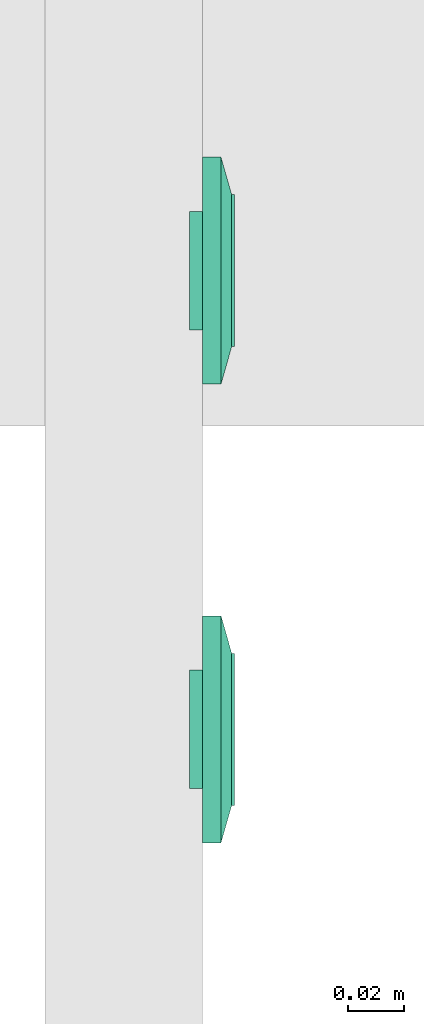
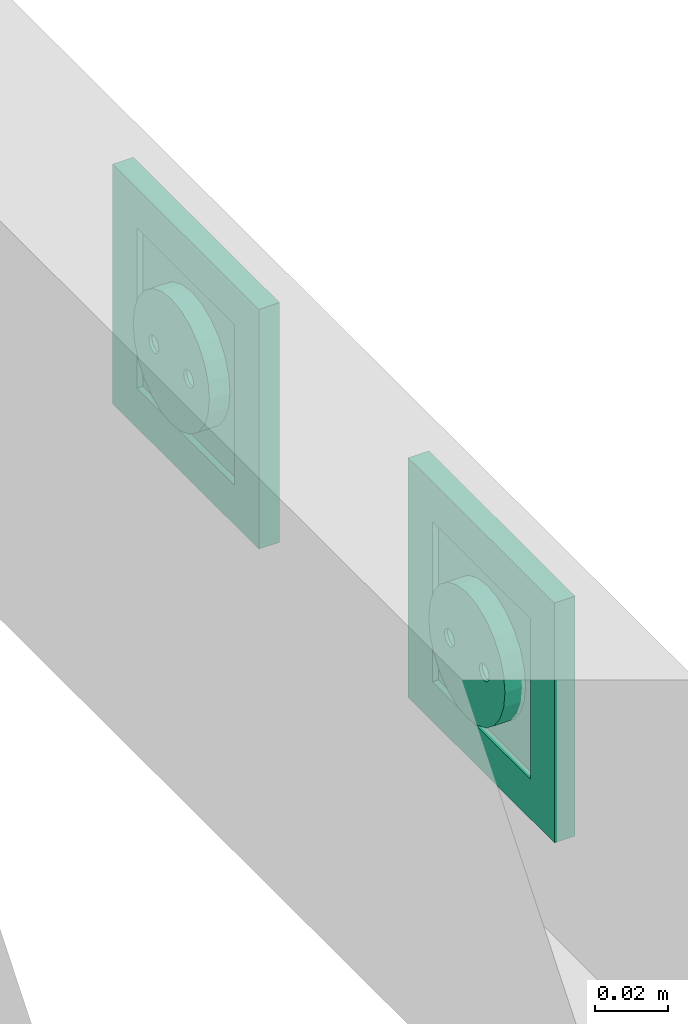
# One storey, part 50 of 166: 2 flow terminals.
"""IFC2X3 building model written with IfcOpenShell, lengths in metres."""

from ifc_helpers import new_model, entity, si_unit, converted_unit, derived_unit, direction, frame, origin, place, context, subcontext, project, spatial, face_set, surface_model, source, transform, mapped, type_object, type_shapes, element, save


model = new_model("IFC2X3")

# Units and contexts
model_context = context("Model", 3, precision=1e-05, world=origin(), true_north=direction((6.12303176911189e-17, 1.0)))
body_context = subcontext(model_context, "Body", "Model", "MODEL_VIEW")
ifc_project = project(units=[si_unit("LENGTHUNIT", "METRE"), si_unit("AREAUNIT", "SQUARE_METRE"), si_unit("VOLUMEUNIT", "CUBIC_METRE"), converted_unit("PLANEANGLEUNIT", "DEGREE", entity("IfcRatioMeasure", 0.0174532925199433), si_unit("PLANEANGLEUNIT", "RADIAN"), dimensions=[0, 0, 0, 0, 0, 0, 0]), si_unit("MASSUNIT", "GRAM", prefix="KILO"), derived_unit("MASSDENSITYUNIT", [(si_unit("MASSUNIT", "GRAM", prefix="KILO"), 1), (si_unit("LENGTHUNIT", "METRE"), -3)]), si_unit("TIMEUNIT", "SECOND"), si_unit("FREQUENCYUNIT", "HERTZ"), si_unit("THERMODYNAMICTEMPERATUREUNIT", "DEGREE_CELSIUS"), derived_unit("THERMALTRANSMITTANCEUNIT", [(si_unit("MASSUNIT", "GRAM", prefix="KILO"), 1), (si_unit("THERMODYNAMICTEMPERATUREUNIT", "KELVIN"), -1), (si_unit("TIMEUNIT", "SECOND"), -3)]), derived_unit("VOLUMETRICFLOWRATEUNIT", [(si_unit("LENGTHUNIT", "METRE"), 3), (si_unit("TIMEUNIT", "SECOND"), -1)]), si_unit("ELECTRICCURRENTUNIT", "AMPERE"), si_unit("ELECTRICVOLTAGEUNIT", "VOLT"), si_unit("POWERUNIT", "WATT"), si_unit("FORCEUNIT", "NEWTON"), si_unit("ILLUMINANCEUNIT", "LUX"), si_unit("LUMINOUSFLUXUNIT", "LUMEN"), si_unit("LUMINOUSINTENSITYUNIT", "CANDELA"), derived_unit("USERDEFINED", [(si_unit("MASSUNIT", "GRAM", prefix="KILO"), -1), (si_unit("LENGTHUNIT", "METRE"), -2), (si_unit("TIMEUNIT", "SECOND"), 3), (si_unit("LUMINOUSFLUXUNIT", "LUMEN"), 1)]), derived_unit("LINEARVELOCITYUNIT", [(si_unit("LENGTHUNIT", "METRE"), 1), (si_unit("TIMEUNIT", "SECOND"), -1)]), si_unit("PRESSUREUNIT", "PASCAL"), derived_unit("USERDEFINED", [(si_unit("LENGTHUNIT", "METRE"), -2), (si_unit("MASSUNIT", "GRAM", prefix="KILO"), 1), (si_unit("TIMEUNIT", "SECOND"), -2)])], contexts=[model_context])

# Site, building, storey
site_placement = place(None, origin())
site = spatial("IfcSite", under=ifc_project, at=site_placement, Name="Default", CompositionType="ELEMENT")
building_placement = place(site_placement, origin())
building = spatial("IfcBuilding", under=site, at=building_placement, CompositionType="ELEMENT")
storey_placement = place(building_placement, frame((0.0, 0.0, 4.27)))
storey = spatial("IfcBuildingStorey", under=building, at=storey_placement, Name="01", CompositionType="ELEMENT", Elevation=4.27)

# Flow terminals
light_fixture_type = type_object("IfcLightFixtureType", Name="PC IP20", PredefinedType="NOTDEFINED")
shared_shape = source(origin(), body_context, "Body", "SurfaceModel", [
    surface_model("IfcFaceBasedSurfaceModel", [(-0.00225000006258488, 0.0127499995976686, 0.00949633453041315), (0.0, 0.0104999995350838, 0.00949633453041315), (0.0, 0.0115376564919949, 0.0101656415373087), (0.0, 0.0139623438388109, 0.0101656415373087), (0.0, 0.0144589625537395, 0.00984531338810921), (0.0, 0.0121178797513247, 0.0102778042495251), (0.0, 0.0133821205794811, 0.0102778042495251), (0.0, 0.0127499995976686, 0.010399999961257), (0.0, 0.0149999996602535, 0.00949633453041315), (0.00225000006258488, 0.0127499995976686, 0.00949633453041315), (0.0, 0.0110410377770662, 0.00984531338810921), (0.0, 0.0127499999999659, 0.00949633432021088), (0.00225000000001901, 0.0127499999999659, 0.00949633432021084), (0.00217333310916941, 0.0121676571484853, 0.00949633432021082), (0.00194855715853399, 0.0116249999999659, 0.00949633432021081), (0.00159099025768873, 0.0111590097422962, 0.00949633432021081), (0.001125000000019, 0.010801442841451, 0.00949633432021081), (0.00058234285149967, 0.0105766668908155, 0.00949633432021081), (0.0, 0.0104999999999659, 0.00949633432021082), (-0.000582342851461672, 0.0105766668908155, 0.00949633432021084), (-0.001124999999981, 0.010801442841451, 0.00949633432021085), (-0.00159099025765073, 0.0111590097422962, 0.00949633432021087), (-0.00194855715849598, 0.011624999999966, 0.00949633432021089), (-0.0021733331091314, 0.0121676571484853, 0.00949633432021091), (-0.00224999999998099, 0.012749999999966, 0.00949633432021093), (-0.00217333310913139, 0.0133323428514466, 0.00949633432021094), (-0.00194855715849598, 0.013874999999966, 0.00949633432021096), (-0.00159099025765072, 0.0143409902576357, 0.00949633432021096), (-0.00112499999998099, 0.0146985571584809, 0.00949633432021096), (-0.00058234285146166, 0.0149233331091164, 0.00949633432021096), (0.0, 0.0149999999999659, 0.00949633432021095), (0.000582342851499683, 0.0149233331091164, 0.00949633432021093), (0.00112500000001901, 0.0146985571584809, 0.00949633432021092), (0.00159099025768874, 0.0143409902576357, 0.00949633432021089), (0.001948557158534, 0.0138749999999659, 0.00949633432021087), (0.00217333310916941, 0.0133323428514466, 0.00949633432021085), (0.00225000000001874, 0.0127499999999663, -0.00360000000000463), (0.00217333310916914, 0.0121676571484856, -0.00360000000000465), (0.00194855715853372, 0.0116249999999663, -0.00360000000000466), (0.00159099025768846, 0.0111590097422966, -0.00360000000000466), (0.00112500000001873, 0.0108014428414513, -0.00360000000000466), (0.000582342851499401, 0.0105766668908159, -0.00360000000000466), (0.0, 0.0104999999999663, -0.00360000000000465), (-0.000582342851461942, 0.0105766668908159, -0.00360000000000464), (-0.00112499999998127, 0.0108014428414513, -0.00360000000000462), (-0.001590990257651, 0.0111590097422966, -0.0036000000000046), (-0.00194855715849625, 0.0116249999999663, -0.00360000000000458), (-0.00217333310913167, 0.0121676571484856, -0.00360000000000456), (-0.00224999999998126, 0.0127499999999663, -0.00360000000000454), (-0.00217333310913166, 0.013332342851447, -0.00360000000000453), (-0.00194855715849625, 0.0138749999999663, -0.00360000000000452), (-0.00159099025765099, 0.014340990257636, -0.00360000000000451), (-0.00112499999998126, 0.0146985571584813, -0.00360000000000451), (-0.000582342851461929, 0.0149233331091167, -0.00360000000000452), (0.0, 0.0149999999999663, -0.00360000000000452), (0.000582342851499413, 0.0149233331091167, -0.00360000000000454), (0.00112500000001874, 0.0146985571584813, -0.00360000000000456), (0.00159099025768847, 0.014340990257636, -0.00360000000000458), (0.00194855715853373, 0.0138749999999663, -0.0036000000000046), (0.00217333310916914, 0.013332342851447, -0.00360000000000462), (0.0270000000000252, 0.026999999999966, 0.0113999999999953), (-0.0269999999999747, 0.026999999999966, 0.0113999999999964), (-0.0269999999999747, -0.0270000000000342, 0.0113999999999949), (0.0270000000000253, -0.0270000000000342, 0.0113999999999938), (-0.0199999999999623, 0.0, 0.0113999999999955), (-0.0193185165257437, -0.00517638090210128, 0.0113999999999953), (-0.0173205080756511, -0.0100000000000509, 0.0113999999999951), (-0.0141421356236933, -0.0141421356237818, 0.011399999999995), (-0.00999999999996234, -0.0173205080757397, 0.0113999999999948), (-0.00517638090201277, -0.0193185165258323, 0.0113999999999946), (0.0, -0.0200000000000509, 0.0113999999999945), (0.00517638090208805, -0.0193185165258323, 0.0113999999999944), (0.0100000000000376, -0.0173205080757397, 0.0113999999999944), (0.0141421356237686, -0.0141421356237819, 0.0113999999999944), (0.0173205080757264, -0.010000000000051, 0.0113999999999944), (0.0193185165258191, -0.00517638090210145, 0.0113999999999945), (0.0200000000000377, 0.0, 0.0113999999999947), (0.0193185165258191, 0.00517638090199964, 0.0113999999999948), (0.0173205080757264, 0.0099999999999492, 0.011399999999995), (0.0141421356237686, 0.0141421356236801, 0.0113999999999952), (0.0100000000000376, 0.0173205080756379, 0.0113999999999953), (0.00517638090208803, 0.0193185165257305, 0.0113999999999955), (0.0, 0.0199999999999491, 0.0113999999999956), (-0.00517638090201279, 0.0193185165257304, 0.0113999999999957), (-0.00999999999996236, 0.0173205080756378, 0.0113999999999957), (-0.0141421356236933, 0.01414213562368, 0.0113999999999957), (-0.0173205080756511, 0.00999999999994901, 0.0113999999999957), (-0.0193185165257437, 0.00517638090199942, 0.0113999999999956), (0.0270000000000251, 0.0269999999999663, 0.00199999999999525), (0.0270000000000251, -0.0270000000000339, 0.00199999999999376), (-0.0269999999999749, -0.0270000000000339, 0.00199999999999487), (-0.0269999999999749, 0.0269999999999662, 0.00199999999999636), (0.0210000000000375, 0.0, 0.00199999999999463), (0.0202844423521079, -0.00543519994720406, 0.00199999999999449), (0.0181865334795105, -0.0105000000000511, 0.0019999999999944), (0.0148492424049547, -0.0148492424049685, 0.00199999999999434), (0.0105000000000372, -0.0181865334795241, 0.00199999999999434), (0.0054351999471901, -0.0202844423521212, 0.00199999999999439), (0.0, -0.0210000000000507, 0.00199999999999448), (-0.00543519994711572, -0.020284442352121, 0.00199999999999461), (-0.0104999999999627, -0.0181865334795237, 0.00199999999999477), (-0.0148492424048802, -0.014849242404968, 0.00199999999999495), (-0.0181865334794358, -0.0105000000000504, 0.00199999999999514), (-0.020284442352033, -0.00543519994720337, 0.00199999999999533), (-0.0209999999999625, 0.0, 0.00199999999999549), (-0.0202844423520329, 0.0054351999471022, 0.00199999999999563), (-0.0181865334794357, 0.0104999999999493, 0.00199999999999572), (-0.01484924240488, 0.0148492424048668, 0.00199999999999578), (-0.0104999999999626, 0.0181865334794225, 0.00199999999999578), (-0.00543519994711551, 0.0202844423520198, 0.00199999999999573), (0.0, 0.0209999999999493, 0.00199999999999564), (0.00543519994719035, 0.0202844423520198, 0.00199999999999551), (0.0105000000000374, 0.0181865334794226, 0.00199999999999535), (0.0148492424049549, 0.0148492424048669, 0.00199999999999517), (0.0181865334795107, 0.0104999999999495, 0.00199999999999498), (0.0202844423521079, 0.00543519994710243, 0.00199999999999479), (0.0200000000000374, 0.0, -0.00360000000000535), (0.0193185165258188, -0.00517638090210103, -0.00360000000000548), (0.0173205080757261, -0.0100000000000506, -0.00360000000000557), (0.0141421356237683, -0.0141421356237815, -0.00360000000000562), (0.0100000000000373, -0.0173205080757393, -0.00360000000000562), (0.00517638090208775, -0.0193185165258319, -0.00360000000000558), (0.0, -0.0200000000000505, -0.00360000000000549), (-0.00517638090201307, -0.0193185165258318, -0.00360000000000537), (-0.00999999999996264, -0.0173205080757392, -0.00360000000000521), (-0.0141421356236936, -0.0141421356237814, -0.00360000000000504), (-0.0173205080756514, -0.0100000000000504, -0.00360000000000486), (-0.019318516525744, -0.00517638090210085, -0.00360000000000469), (-0.0199999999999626, 0.0, -0.00360000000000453), (-0.0193185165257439, 0.00517638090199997, -0.0036000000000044), (-0.0173205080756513, 0.00999999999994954, -0.00360000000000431), (-0.0141421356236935, 0.0141421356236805, -0.00360000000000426), (-0.00999999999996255, 0.0173205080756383, -0.00360000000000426), (-0.00517638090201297, 0.0193185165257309, -0.0036000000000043), (0.0, 0.0199999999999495, -0.00360000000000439), (0.00517638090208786, 0.0193185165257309, -0.00360000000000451), (0.0100000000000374, 0.0173205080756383, -0.00360000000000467), (0.0141421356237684, 0.0141421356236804, -0.00360000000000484), (0.0173205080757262, 0.0099999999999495, -0.00360000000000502), (0.0193185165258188, 0.00517638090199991, -0.00360000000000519), (-0.0123499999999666, 0.0, -0.00360000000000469), (-0.0122562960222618, -0.000711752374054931, -0.00360000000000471), (-0.0119815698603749, -0.00137500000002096, -0.00360000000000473), (-0.0115445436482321, -0.00194454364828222, -0.00360000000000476), (-0.0109749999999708, -0.00238156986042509, -0.00360000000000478), (-0.0103117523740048, -0.00265629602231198, -0.0036000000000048), (-0.00959999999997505, -0.00275000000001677, -0.00360000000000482), (-0.0088882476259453, -0.00265629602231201, -0.00360000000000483), (-0.00822499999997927, -0.00238156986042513, -0.00360000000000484), (-0.00765545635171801, -0.00194454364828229, -0.00360000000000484), (-0.00721843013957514, -0.00137500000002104, -0.00360000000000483), (-0.00694370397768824, -0.000711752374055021, -0.00360000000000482), (-0.00684999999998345, 0.0, -0.0036000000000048), (-0.00694370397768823, 0.000711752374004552, -0.00360000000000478), (-0.00721843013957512, 0.00137499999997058, -0.00360000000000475), (-0.00765545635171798, 0.00194454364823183, -0.00360000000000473), (-0.00822499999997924, 0.00238156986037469, -0.0036000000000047), (-0.00888824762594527, 0.00265629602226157, -0.00360000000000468), (-0.00959999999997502, 0.00274999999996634, -0.00360000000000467), (-0.0103117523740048, 0.00265629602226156, -0.00360000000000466), (-0.0109749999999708, 0.00238156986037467, -0.00360000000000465), (-0.011544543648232, 0.00194454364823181, -0.00360000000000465), (-0.0119815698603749, 0.00137499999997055, -0.00360000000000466), (-0.0122562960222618, 0.000711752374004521, -0.00360000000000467), (0.00685000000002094, 0.0, -0.00360000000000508), (0.0069437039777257, -0.00071175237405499, -0.0036000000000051), (0.00721843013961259, -0.00137500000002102, -0.00360000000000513), (0.00765545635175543, -0.00194454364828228, -0.00360000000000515), (0.00822500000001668, -0.00238156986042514, -0.00360000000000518), (0.00888824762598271, -0.00265629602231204, -0.0036000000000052), (0.00960000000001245, -0.00275000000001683, -0.00360000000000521), (0.0103117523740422, -0.00265629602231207, -0.00360000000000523), (0.0109750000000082, -0.00238156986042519, -0.00360000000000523), (0.0115445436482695, -0.00194454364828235, -0.00360000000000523), (0.0119815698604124, -0.0013750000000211, -0.00360000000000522), (0.0122562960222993, -0.00071175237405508, -0.00360000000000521), (0.012350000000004, 0.0, -0.00360000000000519), (0.0122562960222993, 0.000711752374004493, -0.00360000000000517), (0.0119815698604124, 0.00137499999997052, -0.00360000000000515), (0.0115445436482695, 0.00194454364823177, -0.00360000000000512), (0.0109750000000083, 0.00238156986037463, -0.0036000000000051), (0.0103117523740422, 0.00265629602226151, -0.00360000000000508), (0.00960000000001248, 0.00274999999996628, -0.00360000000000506), (0.00888824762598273, 0.0026562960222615, -0.00360000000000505), (0.0082250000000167, 0.00238156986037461, -0.00360000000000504), (0.00765545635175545, 0.00194454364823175, -0.00360000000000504), (0.0072184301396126, 0.00137499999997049, -0.00360000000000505), (0.00694370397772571, 0.000711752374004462, -0.00360000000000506), (0.0210000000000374, 0.0, -0.00460000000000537), (0.0202844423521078, -0.00543519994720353, -0.00460000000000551), (0.0181865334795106, -0.0105000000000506, -0.0046000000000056), (0.0148492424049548, -0.0148492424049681, -0.00460000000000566), (0.0105000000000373, -0.0181865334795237, -0.00460000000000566), (0.00543519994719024, -0.0202844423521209, -0.00460000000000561), (0.0, -0.0210000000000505, -0.00460000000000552), (-0.00543519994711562, -0.0202844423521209, -0.00460000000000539), (-0.0104999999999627, -0.0181865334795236, -0.00460000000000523), (-0.0148492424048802, -0.0148492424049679, -0.00460000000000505), (-0.0181865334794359, -0.0105000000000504, -0.00460000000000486), (-0.0202844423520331, -0.00543519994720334, -0.00460000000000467), (-0.0209999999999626, 0.0, -0.00460000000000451), (-0.020284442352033, 0.00543519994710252, -0.00460000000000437), (-0.0181865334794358, 0.0104999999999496, -0.00460000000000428), (-0.0148492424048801, 0.0148492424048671, -0.00460000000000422), (-0.0104999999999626, 0.0181865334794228, -0.00460000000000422), (-0.00543519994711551, 0.02028444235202, -0.00460000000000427), (0.0, 0.0209999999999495, -0.00460000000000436), (0.00543519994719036, 0.02028444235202, -0.00460000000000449), (0.0105000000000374, 0.0181865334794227, -0.00460000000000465), (0.0148492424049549, 0.014849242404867, -0.00460000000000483), (0.0181865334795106, 0.0104999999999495, -0.00460000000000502), (0.0202844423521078, 0.00543519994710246, -0.00460000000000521), (-0.00684999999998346, 0.0, -0.0046000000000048), (-0.00694370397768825, 0.000711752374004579, -0.00460000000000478), (-0.00721843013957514, 0.00137499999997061, -0.00460000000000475), (-0.007655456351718, 0.00194454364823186, -0.00460000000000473), (-0.00822499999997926, 0.00238156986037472, -0.0046000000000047), (-0.00888824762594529, 0.0026562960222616, -0.00460000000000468), (-0.00959999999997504, 0.00274999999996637, -0.00460000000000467), (-0.0103117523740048, 0.00265629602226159, -0.00460000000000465), (-0.0109749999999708, 0.0023815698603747, -0.00460000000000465), (-0.0115445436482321, 0.00194454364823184, -0.00460000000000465), (-0.0119815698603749, 0.00137499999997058, -0.00460000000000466), (-0.0122562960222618, 0.000711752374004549, -0.00460000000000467), (-0.0123499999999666, 0.0, -0.00460000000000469), (-0.0122562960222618, -0.000711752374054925, -0.00460000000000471), (-0.0119815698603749, -0.00137500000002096, -0.00460000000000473), (-0.0115445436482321, -0.00194454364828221, -0.00460000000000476), (-0.0109749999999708, -0.00238156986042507, -0.00460000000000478), (-0.0103117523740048, -0.00265629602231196, -0.0046000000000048), (-0.00959999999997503, -0.00275000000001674, -0.00460000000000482), (-0.00888824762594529, -0.00265629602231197, -0.00460000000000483), (-0.00822499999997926, -0.00238156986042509, -0.00460000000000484), (-0.007655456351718, -0.00194454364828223, -0.00460000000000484), (-0.00721843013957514, -0.00137500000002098, -0.00460000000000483), (-0.00694370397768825, -0.000711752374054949, -0.00460000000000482), (0.012350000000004, 0.0, -0.00460000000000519), (0.0122562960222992, 0.000711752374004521, -0.00460000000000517), (0.0119815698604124, 0.00137499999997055, -0.00460000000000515), (0.0115445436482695, 0.0019445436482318, -0.00460000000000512), (0.0109750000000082, 0.00238156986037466, -0.0046000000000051), (0.0103117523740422, 0.00265629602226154, -0.00460000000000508), (0.00960000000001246, 0.00274999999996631, -0.00460000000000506), (0.00888824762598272, 0.00265629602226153, -0.00460000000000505), (0.00822500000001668, 0.00238156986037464, -0.00460000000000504), (0.00765545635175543, 0.00194454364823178, -0.00460000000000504), (0.00721843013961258, 0.00137499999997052, -0.00460000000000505), (0.00694370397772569, 0.00071175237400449, -0.00460000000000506), (0.00685000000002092, 0.0, -0.00460000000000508), (0.00694370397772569, -0.000711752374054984, -0.0046000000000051), (0.00721843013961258, -0.00137500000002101, -0.00460000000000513), (0.00765545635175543, -0.00194454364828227, -0.00460000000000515), (0.00822500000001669, -0.00238156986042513, -0.00460000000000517), (0.00888824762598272, -0.00265629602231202, -0.0046000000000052), (0.00960000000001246, -0.0027500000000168, -0.00460000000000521), (0.0103117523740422, -0.00265629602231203, -0.00460000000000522), (0.0109750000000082, -0.00238156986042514, -0.00460000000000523), (0.0115445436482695, -0.00194454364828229, -0.00460000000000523), (0.0119815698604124, -0.00137500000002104, -0.00460000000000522), (0.0122562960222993, -0.000711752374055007, -0.00460000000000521), (0.040350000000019, 0.0403499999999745, 0.00659999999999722), (0.040350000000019, -0.0403500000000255, 0.00659999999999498), (-0.0403499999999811, -0.0403500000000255, 0.00659999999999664), (-0.0403499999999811, 0.0403499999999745, 0.00659999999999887), (0.027000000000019, 0.0269999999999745, 0.00659999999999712), (-0.0269999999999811, 0.0269999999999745, 0.00659999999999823), (-0.026999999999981, -0.0270000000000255, 0.00659999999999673), (0.027000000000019, -0.0270000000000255, 0.00659999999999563), (0.027000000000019, 0.0269999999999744, 0.0103999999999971), (-0.026999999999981, 0.0269999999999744, 0.0103999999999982), (-0.026999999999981, -0.0270000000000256, 0.0103999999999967), (0.027000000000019, -0.0270000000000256, 0.0103999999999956), (0.040350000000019, 0.0403499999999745, 0.00659999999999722), (0.040350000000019, -0.0403500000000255, 0.00659999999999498), (-0.0403499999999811, -0.0403500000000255, 0.00659999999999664), (-0.0403499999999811, 0.0403499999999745, 0.00659999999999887), (-0.0269999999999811, 0.0269999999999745, 0.00659999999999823), (-0.0269999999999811, -0.0270000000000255, 0.00659999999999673), (0.0270000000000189, -0.0270000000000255, 0.00659999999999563), (0.0270000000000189, 0.0269999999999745, 0.00659999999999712), (0.0403500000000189, 0.0403499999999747, 0.0), (0.0403500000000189, -0.0403500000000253, 0.0), (-0.0403499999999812, -0.0403500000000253, 0.0), (-0.0403499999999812, 0.0403499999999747, 0.0), (0.0270000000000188, 0.0269999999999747, 0.0), (-0.0269999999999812, 0.0269999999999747, 0.0), (-0.0269999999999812, -0.0270000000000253, 0.0), (0.0270000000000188, -0.0270000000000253, 0.0)], [face_set([[[0, 1, 2]], [[3, 4, 2, 5]], [[6, 3, 5, 7]], [[2, 4, 0]], [[4, 8, 0]], [[3, 9, 8]], [[1, 9, 10]], [[2, 3, 6, 7]], [[3, 10, 9]], [[2, 10, 3]], [[11, 1, 0, 8]], [[11, 8, 9, 1]]]), face_set([[[12, 13, 14, 15, 16, 17, 18, 19, 20, 21, 22, 23, 24, 25, 26, 27, 28, 29, 30, 31, 32, 33, 34, 35]], [[36, 37, 38, 39, 40, 41, 42, 43, 44, 45, 46, 47, 48, 49, 50, 51, 52, 53, 54, 55, 56, 57, 58, 59]], [[48, 47, 23, 24]], [[47, 46, 22, 23]], [[45, 44, 20, 21]], [[46, 45, 21, 22]], [[44, 43, 19, 20]], [[18, 19, 43, 42]], [[42, 41, 17, 18]], [[41, 40, 16, 17]], [[39, 38, 14, 15]], [[40, 39, 15, 16]], [[38, 37, 13, 14]], [[12, 13, 37, 36]], [[36, 59, 35, 12]], [[59, 58, 34, 35]], [[57, 56, 32, 33]], [[58, 57, 33, 34]], [[56, 55, 31, 32]], [[30, 31, 55, 54]], [[54, 53, 29, 30]], [[53, 52, 28, 29]], [[51, 50, 26, 27]], [[52, 51, 27, 28]], [[50, 49, 25, 26]], [[24, 25, 49, 48]]]), face_set([[[60, 61, 62, 63], [64, 65, 66, 67, 68, 69, 70, 71, 72, 73, 74, 75, 76, 77, 78, 79, 80, 81, 82, 83, 84, 85, 86, 87]], [[88, 89, 90, 91], [92, 93, 94, 95, 96, 97, 98, 99, 100, 101, 102, 103, 104, 105, 106, 107, 108, 109, 110, 111, 112, 113, 114, 115]], [[61, 60, 88, 91]], [[62, 61, 91, 90]], [[63, 62, 90, 89]], [[60, 63, 89, 88]], [[116, 117, 118, 119, 120, 121, 122, 123, 124, 125, 126, 127, 128, 129, 130, 131, 132, 133, 134, 135, 136, 137, 138, 139], [140, 141, 142, 143, 144, 145, 146, 147, 148, 149, 150, 151, 152, 153, 154, 155, 156, 157, 158, 159, 160, 161, 162, 163], [164, 165, 166, 167, 168, 169, 170, 171, 172, 173, 174, 175, 176, 177, 178, 179, 180, 181, 182, 183, 184, 185, 186, 187]], [[64, 128, 127, 65]], [[65, 127, 126, 66]], [[67, 125, 124, 68]], [[66, 126, 125, 67]], [[68, 124, 123, 69]], [[122, 70, 69, 123]], [[70, 122, 121, 71]], [[71, 121, 120, 72]], [[73, 119, 118, 74]], [[72, 120, 119, 73]], [[74, 118, 117, 75]], [[116, 76, 75, 117]], [[76, 116, 139, 77]], [[77, 139, 138, 78]], [[79, 137, 136, 80]], [[78, 138, 137, 79]], [[80, 136, 135, 81]], [[134, 82, 81, 135]], [[82, 134, 133, 83]], [[83, 133, 132, 84]], [[84, 132, 131, 85]], [[85, 131, 130, 86]], [[130, 129, 87, 86]], [[64, 87, 129, 128]], [[188, 189, 190, 191, 192, 193, 194, 195, 196, 197, 198, 199, 200, 201, 202, 203, 204, 205, 206, 207, 208, 209, 210, 211], [212, 213, 214, 215, 216, 217, 218, 219, 220, 221, 222, 223, 224, 225, 226, 227, 228, 229, 230, 231, 232, 233, 234, 235], [236, 237, 238, 239, 240, 241, 242, 243, 244, 245, 246, 247, 248, 249, 250, 251, 252, 253, 254, 255, 256, 257, 258, 259]], [[200, 199, 103, 104]], [[199, 198, 102, 103]], [[197, 196, 100, 101]], [[198, 197, 101, 102]], [[196, 195, 99, 100]], [[98, 99, 195, 194]], [[194, 193, 97, 98]], [[193, 192, 96, 97]], [[191, 190, 94, 95]], [[192, 191, 95, 96]], [[190, 189, 93, 94]], [[92, 93, 189, 188]], [[188, 211, 115, 92]], [[211, 210, 114, 115]], [[209, 208, 112, 113]], [[210, 209, 113, 114]], [[208, 207, 111, 112]], [[110, 111, 207, 206]], [[206, 205, 109, 110]], [[205, 204, 108, 109]], [[203, 202, 106, 107]], [[204, 203, 107, 108]], [[202, 201, 105, 106]], [[104, 105, 201, 200]], [[141, 225, 226, 142]], [[140, 224, 225, 141]], [[144, 228, 229, 145]], [[143, 227, 228, 144]], [[142, 226, 227, 143]], [[230, 146, 145, 229]], [[149, 233, 232, 148]], [[148, 232, 231, 147]], [[152, 212, 235, 151]], [[151, 235, 234, 150]], [[150, 234, 233, 149]], [[146, 230, 231, 147]], [[154, 214, 213, 153]], [[153, 213, 212, 152]], [[157, 217, 216, 156]], [[156, 216, 215, 155]], [[155, 215, 214, 154]], [[218, 158, 157, 217]], [[160, 220, 221, 161]], [[159, 219, 220, 160]], [[163, 223, 224, 140]], [[162, 222, 223, 163]], [[161, 221, 222, 162]], [[158, 218, 219, 159]], [[166, 250, 249, 165]], [[165, 249, 248, 164]], [[169, 253, 252, 168]], [[168, 252, 251, 167]], [[167, 251, 250, 166]], [[254, 170, 169, 253]], [[172, 256, 257, 173]], [[171, 255, 256, 172]], [[175, 259, 236, 176]], [[174, 258, 259, 175]], [[173, 257, 258, 174]], [[170, 254, 255, 171]], [[177, 237, 238, 178]], [[176, 236, 237, 177]], [[180, 240, 241, 181]], [[179, 239, 240, 180]], [[178, 238, 239, 179]], [[242, 182, 181, 241]], [[185, 245, 244, 184]], [[184, 244, 243, 183]], [[164, 248, 247, 187]], [[187, 247, 246, 186]], [[186, 246, 245, 185]], [[182, 242, 243, 183]]]), face_set([[[260, 261, 262, 263], [264, 265, 266, 267]], [[260, 268, 269, 263]], [[263, 269, 270, 262]], [[262, 270, 271, 261]], [[261, 271, 268, 260]], [[264, 265, 269, 268]], [[265, 266, 270, 269]], [[266, 267, 271, 270]], [[268, 271, 267, 264]]]), face_set([[[272, 273, 274, 275], [276, 277, 278, 279]], [[280, 281, 282, 283], [284, 285, 286, 287]], [[275, 272, 280, 283]], [[274, 275, 283, 282]], [[273, 274, 282, 281]], [[272, 273, 281, 280]], [[284, 285, 276, 279]], [[285, 286, 277, 276]], [[286, 287, 278, 277]], [[279, 278, 287, 284]]])]),
])
type_shapes(light_fixture_type, [shared_shape])
for number, where, z_axis, x_axis in (
    (1, (33.6087436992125, -189.654119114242, 4.70800000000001), (1.0, 0.0, 0.0), (0.0, 1.0, 0.0)),
    (2, (33.6087436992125, -189.491119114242, 4.70800000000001), (1.0, 0.0, 0.0), (0.0, 1.0, 0.0)),
):
    element("IfcFlowTerminal", number, at=place(building_placement, frame(where, z_axis=z_axis, x_axis=x_axis)), inside=storey, type_object=light_fixture_type, Name="INT Prise de courant:PC IP20", ObjectType="INT Prise de courant:PC IP20", context=body_context, shape_type="MappedRepresentation", body=[
        mapped(shared_shape, transform((0.0, 0.0, 0.0), scale=1.0)),
    ])

save(model, "model.ifc")
